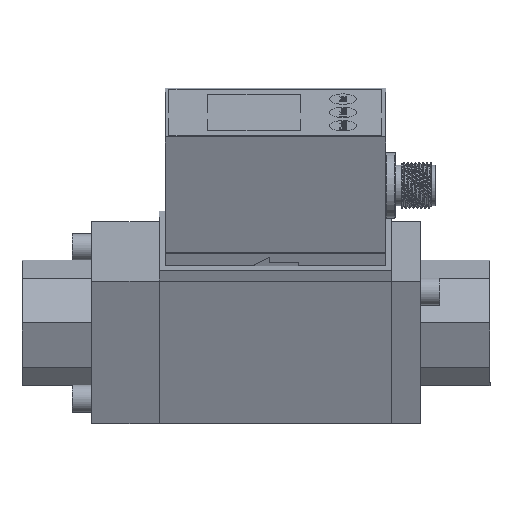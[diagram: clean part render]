
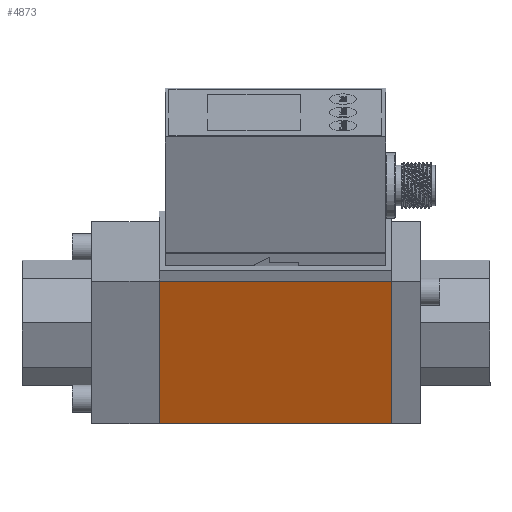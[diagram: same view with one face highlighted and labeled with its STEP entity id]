
A CAD part, front view. The second image highlights one B-rep face of the part: STEP entity #4873.
In plain terms, the highlighted planar face has unit normal (0, -0.923, -0.384) as drawn and (-1, 0, 0) by its records, which use the part's own axes.
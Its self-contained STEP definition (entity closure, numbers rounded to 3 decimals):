
#218 = CARTESIAN_POINT ( 'NONE',  ( 0., 0., 60. ) ) ;
#730 = DIRECTION ( 'NONE',  ( 0., 0., -1. ) ) ;
#1609 = CARTESIAN_POINT ( 'NONE',  ( 0., 40., 0. ) ) ;
#1806 = CARTESIAN_POINT ( 'NONE',  ( 0., 40., 60. ) ) ;
#1868 = LINE ( 'NONE', #218, #4235 ) ;
#2349 = DIRECTION ( 'NONE',  ( 0., 0., -1. ) ) ;
#2449 = FACE_OUTER_BOUND ( 'NONE', #14752, .T. ) ;
#3480 = ORIENTED_EDGE ( 'NONE', *, *, #4744, .F. ) ;
#3575 = VERTEX_POINT ( 'NONE', #8290 ) ;
#3792 = VERTEX_POINT ( 'NONE', #11854 ) ;
#4235 = VECTOR ( 'NONE', #4958, 1000. ) ;
#4272 = CARTESIAN_POINT ( 'NONE',  ( 0., 40., 60. ) ) ;
#4744 = EDGE_CURVE ( 'NONE', #15909, #3792, #1868, .T. ) ;
#4873 = ADVANCED_FACE ( 'NONE', ( #2449 ), #5054, .F. ) ;
#4958 = DIRECTION ( 'NONE',  ( 0., -1., 0. ) ) ;
#5054 = PLANE ( 'NONE',  #9782 ) ;
#6194 = VECTOR ( 'NONE', #730, 1000. ) ;
#6285 = VERTEX_POINT ( 'NONE', #1609 ) ;
#6429 = VECTOR ( 'NONE', #6495, 1000. ) ;
#6495 = DIRECTION ( 'NONE',  ( 0., -1., 0. ) ) ;
#7350 = ORIENTED_EDGE ( 'NONE', *, *, #9432, .T. ) ;
#7592 = LINE ( 'NONE', #1806, #16259 ) ;
#8290 = CARTESIAN_POINT ( 'NONE',  ( 0., 0., 0. ) ) ;
#9432 = EDGE_CURVE ( 'NONE', #6285, #3575, #12384, .T. ) ;
#9782 = AXIS2_PLACEMENT_3D ( 'NONE', #16935, #11037, #2349 ) ;
#9878 = EDGE_CURVE ( 'NONE', #15909, #6285, #7592, .T. ) ;
#10762 = ORIENTED_EDGE ( 'NONE', *, *, #17723, .F. ) ;
#11037 = DIRECTION ( 'NONE',  ( 1., 0., 0. ) ) ;
#11070 = LINE ( 'NONE', #16964, #6194 ) ;
#11854 = CARTESIAN_POINT ( 'NONE',  ( 0., 0., 60. ) ) ;
#12384 = LINE ( 'NONE', #17017, #6429 ) ;
#14752 = EDGE_LOOP ( 'NONE', ( #7350, #10762, #3480, #15521 ) ) ;
#15521 = ORIENTED_EDGE ( 'NONE', *, *, #9878, .T. ) ;
#15909 = VERTEX_POINT ( 'NONE', #4272 ) ;
#16259 = VECTOR ( 'NONE', #17562, 1000. ) ;
#16935 = CARTESIAN_POINT ( 'NONE',  ( 0., 0., 60. ) ) ;
#16964 = CARTESIAN_POINT ( 'NONE',  ( 0., 0., 60. ) ) ;
#17017 = CARTESIAN_POINT ( 'NONE',  ( 0., 0., 0. ) ) ;
#17562 = DIRECTION ( 'NONE',  ( 0., 0., -1. ) ) ;
#17723 = EDGE_CURVE ( 'NONE', #3792, #3575, #11070, .T. ) ;
